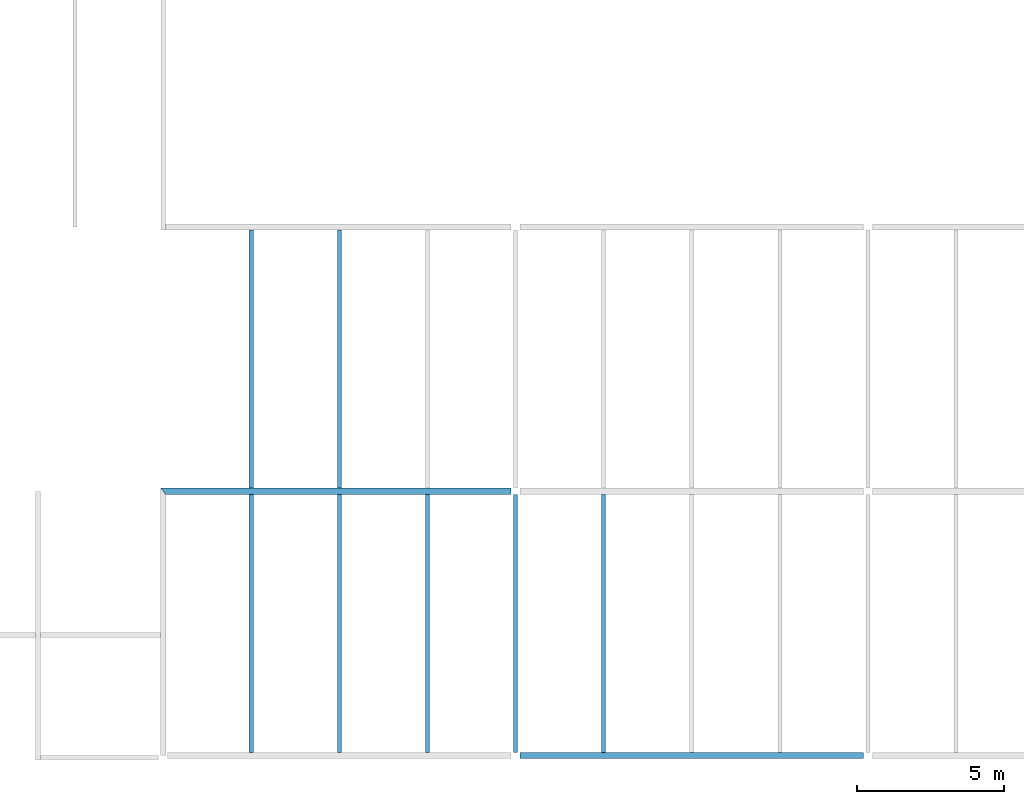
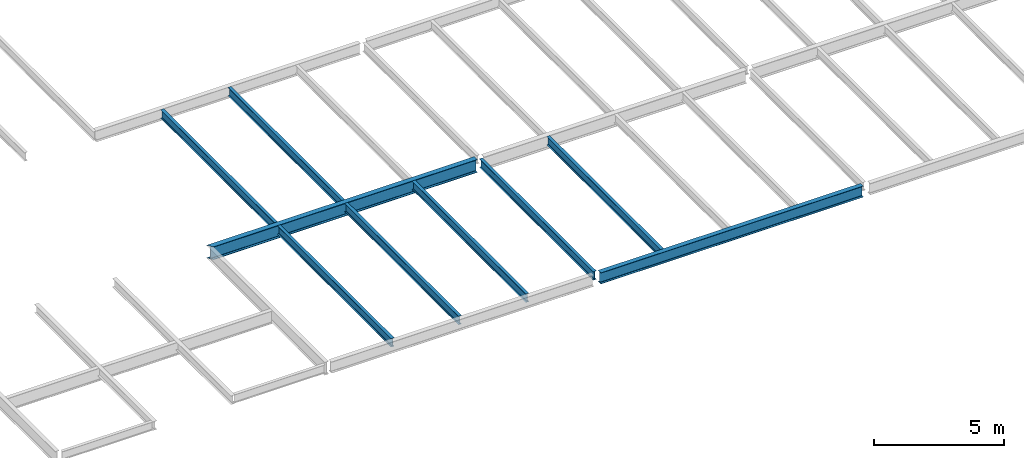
# One storey, part 13 of 23: 9 beams.
"""IFC2X3 building model written with IfcOpenShell, lengths in millimetres."""

import ifcopenshell
import ifcopenshell.guid

model = None  # the IFC model being written
_history = None  # IfcOwnerHistory: only IFC2X3 demands one
_inside = {}  # id of a spatial element -> (the spatial element, [elements in it])
_under = {}  # id of a project, library or spatial element -> (it, [spatial elements below it])
_declared = {}  # id of a project -> (the project, [libraries it declares])
_typed = {}  # id of a type object -> (the type object, [elements of that type])
_made_of = {}  # id of a material, layer set ... -> (it, [elements and type objects made of it])


def new_model(schema):
    """Start an empty IFC model of exactly this schema.

    Asked for "IFC4X3", IfcOpenShell would pick the latest addendum, in which some entities
    have other attributes; the version numbers below select the first issue.
    IFC2X3 requires an IfcOwnerHistory on every rooted entity: one is made here for all.
    """
    global model, _history
    if schema == "IFC4X3":
        model = ifcopenshell.file(schema_version=(4, 3, 0, 0))
    else:
        model = ifcopenshell.file(schema=schema)
    _inside.clear()
    _under.clear()
    _declared.clear()
    _typed.clear()
    _made_of.clear()
    _history = None
    if model.schema == "IFC2X3":
        org = make("IfcOrganization", Name="unknown")
        user = make(
            "IfcPersonAndOrganization",
            ThePerson=make("IfcPerson", FamilyName="unknown"),
            TheOrganization=org,
        )
        app = make(
            "IfcApplication",
            ApplicationDeveloper=org,
            Version="unknown",
            ApplicationFullName="unknown",
            ApplicationIdentifier="unknown",
        )
        _history = make(
            "IfcOwnerHistory",
            OwningUser=user,
            OwningApplication=app,
            ChangeAction="ADDED",
            CreationDate=0,
        )
    return model


def make(cls, **values):
    """One entity of the class cls with the attributes given. An attribute that is None is left unset."""
    return model.create_entity(
        cls, **{name: value for name, value in values.items() if value is not None}
    )


def rooted(cls, **values):
    """An entity with a GlobalId (a new one), such as an element, a storey or a relation."""
    return make(cls, GlobalId=ifcopenshell.guid.new(), OwnerHistory=_history, **values)


def si_unit(unit_type, name, prefix=None):
    """IfcSIUnit, for example si_unit("LENGTHUNIT", "METRE", prefix="MILLI")."""
    return make("IfcSIUnit", UnitType=unit_type, Prefix=prefix, Name=name)


def assignment(units):
    """IfcUnitAssignment: the units of a project."""
    return None if units is None else make("IfcUnitAssignment", Units=units)


def point(xyz):
    """IfcCartesianPoint."""
    return None if xyz is None else make("IfcCartesianPoint", Coordinates=xyz)


def direction(xyz):
    """IfcDirection."""
    return None if xyz is None else make("IfcDirection", DirectionRatios=xyz)


def frame(location, z_axis=None, x_axis=None):
    """IfcAxis2Placement3D, a coordinate frame: its origin and axes. An axis left out is left unset."""
    return make(
        "IfcAxis2Placement3D",
        Location=point(location),
        Axis=direction(z_axis),
        RefDirection=direction(x_axis),
    )


def origin():
    """The frame at (0, 0, 0) with its axes left unset."""
    return frame((0.0, 0.0, 0.0))


def place(relative_to, where):
    """IfcLocalPlacement: puts the frame where relative to a parent placement (None: the world)."""
    return make(
        "IfcLocalPlacement", PlacementRelTo=relative_to, RelativePlacement=where
    )


def context(
    kind, dimensions, precision=None, world=None, true_north=None, identifier=None
):
    """IfcGeometricRepresentationContext, for example the 3D "Model" context."""
    return make(
        "IfcGeometricRepresentationContext",
        ContextIdentifier=identifier,
        ContextType=kind,
        CoordinateSpaceDimension=dimensions,
        Precision=precision,
        WorldCoordinateSystem=world,
        TrueNorth=true_north,
    )


def project(units=None, contexts=None):
    """IfcProject with its units and contexts."""
    return rooted(
        "IfcProject",
        Name="project",
        RepresentationContexts=contexts,
        UnitsInContext=assignment(units),
    )


def spatial(cls, under=None, at=None, **own):
    """A site, building, storey or space (cls), placed at a placement, below another one or the project."""
    s = rooted(cls, ObjectPlacement=at, **own)
    if under is not None:
        _under.setdefault(under.id(), (under, []))[1].append(s)
    return s


def faces_of(points, faces, orient=None, outer=None):
    """IfcFace entities. A face is a list of loops; a loop is a list of indices into points, from 0.

    orient and outer hold one flag for each loop. By default every Orientation is true, the
    first loop of a face is its IfcFaceOuterBound and the others are IfcFaceBound.
    """
    made = []
    for i, loops in enumerate(faces):
        bounds = []
        for j, loop in enumerate(loops):
            is_outer = j == 0 if outer is None else outer[i][j]
            bounds.append(
                make(
                    "IfcFaceOuterBound" if is_outer else "IfcFaceBound",
                    Bound=make("IfcPolyLoop", Polygon=[points[k] for k in loop]),
                    Orientation=True if orient is None else orient[i][j],
                )
            )
        made.append(make("IfcFace", Bounds=bounds))
    return made


def faceted_brep(points, faces, orient=None, outer=None, voids=None):
    """IfcFacetedBrep: a solid bounded by flat faces; with voids (closed shells), ...WithVoids."""
    shared = [point(p) for p in points]
    hull = make("IfcClosedShell", CfsFaces=faces_of(shared, faces, orient, outer))
    if voids is None:
        return make("IfcFacetedBrep", Outer=hull)
    return make(
        "IfcFacetedBrepWithVoids",
        Outer=hull,
        Voids=[
            make(cls, CfsFaces=faces_of(shared, fs, o, b)) for cls, fs, o, b in voids
        ],
    )


def shape(context_of_items, identifier, shape_type, items):
    """IfcShapeRepresentation: the items that make up one representation, for example the "Body"."""
    return make(
        "IfcShapeRepresentation",
        ContextOfItems=context_of_items,
        RepresentationIdentifier=identifier,
        RepresentationType=shape_type,
        Items=items,
    )


def material(Name=None, Category=None):
    """IfcMaterial."""
    return make("IfcMaterial", Name=Name, Category=Category)


def made_of(thing, what):
    """Note that an element or type object is made of a material, layer set ...; save() writes the relation."""
    if what is not None:
        _made_of.setdefault(what.id(), (what, []))[1].append(thing)
    return thing


def element(
    cls,
    number,
    at=None,
    inside=None,
    cuts=None,
    type_object=None,
    material=None,
    context=None,
    identifier="Body",
    shape_type=None,
    held_by="IfcProductDefinitionShape",
    body=None,
    shapes=None,
    **own,
):
    """One element of the class cls, such as IfcWall. Its Tag is "e" and its number.

    at: its placement. inside: the storey or other place that contains it. cuts: it is an
    opening in that element (IfcRelVoidsElement). A single representation is given by context,
    identifier, shape_type and body (its items); several are given by shapes. held_by: the class
    of the entity that holds the representations. save() writes the other relations.
    """
    e = rooted(cls, Tag="e%d" % number, ObjectPlacement=at, **own)
    if body is not None:
        shapes = [shape(context, identifier, shape_type, body)]
    if shapes is not None:
        e.Representation = make(held_by, Representations=shapes)
    if inside is not None:
        _inside.setdefault(inside.id(), (inside, []))[1].append(e)
    if cuts is not None:
        rooted(
            "IfcRelVoidsElement", RelatingBuildingElement=cuts, RelatedOpeningElement=e
        )
    if type_object is not None:
        _typed.setdefault(type_object.id(), (type_object, []))[1].append(e)
    return made_of(e, material)


def aggregate(whole, parts):
    """IfcRelAggregates: a whole, such as a stair, and the parts it consists of."""
    return rooted("IfcRelAggregates", RelatingObject=whole, RelatedObjects=parts)


def save(model, path):
    """Write the relations noted so far, then the file.

    IfcRelAggregates (storeys below a building ...), IfcRelContainedInSpatialStructure (elements
    in a storey), IfcRelDefinesByType, IfcRelAssociatesMaterial and IfcRelDeclares: one each for
    every whole, place, type object, material and project.
    """
    for whole, parts in _under.values():
        aggregate(whole, parts)
    for where, things in _inside.values():
        rooted(
            "IfcRelContainedInSpatialStructure",
            RelatedElements=things,
            RelatingStructure=where,
        )
    for kind, things in _typed.values():
        rooted("IfcRelDefinesByType", RelatedObjects=things, RelatingType=kind)
    for what, things in _made_of.values():
        rooted("IfcRelAssociatesMaterial", RelatedObjects=things, RelatingMaterial=what)
    for by, libraries in _declared.values():
        rooted("IfcRelDeclares", RelatingContext=by, RelatedDefinitions=libraries)
    model.write(path)


model = new_model("IFC2X3")

# Units and contexts
context_of_model = context(None, 3, precision=1e-05, world=origin())
ifc_project = project(units=[si_unit("LENGTHUNIT", "METRE", prefix="MILLI")], contexts=[context_of_model])

# Building, storey
building = spatial("IfcBuilding", under=ifc_project, Name="Building", CompositionType="ELEMENT")
storey = spatial("IfcBuildingStorey", under=building, Name="FL5-FRM", CompositionType="ELEMENT")

# Beams
ifc_material_1 = material(Name="A992")
beam_1_placement = place(None, origin())
element("IfcBeam", 1, at=beam_1_placement, inside=storey, material=ifc_material_1, Name="B803", context=context_of_model, shape_type="Brep", body=[
    faceted_brep([(27070.0, 9104.5, 17474.0), (26930.0, 9104.5, 17474.0), (26930.0, 17885.5, 17474.0), (27070.0, 17885.5, 17474.0), (26930.0, 9104.5, 17482.8), (26930.0, 17885.5, 17482.8), (26986.6, 9104.5, 17482.8), (26986.6, 17885.5, 17482.8), (26989.2, 9104.5, 17483.1), (26989.2, 17885.5, 17483.1), (26991.7, 9104.5, 17484.2), (26991.7, 17885.5, 17484.2), (26993.8, 9104.5, 17485.8), (26993.8, 17885.5, 17485.8), (26995.4, 9104.5, 17487.9), (26995.4, 17885.5, 17487.9), (26996.5, 9104.5, 17490.4), (26996.5, 17885.5, 17490.4), (26996.8, 9104.5, 17493.0), (26996.8, 17885.5, 17493.0), (26996.8, 9104.5, 17854.0), (26996.8, 17885.5, 17854.0), (26996.5, 9104.5, 17856.6), (26996.5, 17885.5, 17856.6), (26995.4, 9104.5, 17859.1), (26995.4, 17885.5, 17859.1), (26993.8, 9104.5, 17861.2), (26993.8, 17885.5, 17861.2), (26991.7, 9104.5, 17862.8), (26991.7, 17885.5, 17862.8), (26989.2, 9104.5, 17863.9), (26989.2, 17885.5, 17863.9), (26986.6, 9104.5, 17864.2), (26986.6, 17885.5, 17864.2), (26930.0, 9104.5, 17864.2), (26930.0, 17885.5, 17864.2), (26930.0, 9104.5, 17873.0), (26930.0, 17885.5, 17873.0), (27070.0, 9104.5, 17873.0), (27070.0, 17885.5, 17873.0), (27070.0, 9104.5, 17864.2), (27070.0, 17885.5, 17864.2), (27013.4, 9104.5, 17864.2), (27013.4, 17885.5, 17864.2), (27010.8, 9104.5, 17863.9), (27010.8, 17885.5, 17863.9), (27008.3, 9104.5, 17862.8), (27008.3, 17885.5, 17862.8), (27006.2, 9104.5, 17861.2), (27006.2, 17885.5, 17861.2), (27004.6, 9104.5, 17859.1), (27004.6, 17885.5, 17859.1), (27003.5, 9104.5, 17856.6), (27003.5, 17885.5, 17856.6), (27003.2, 9104.5, 17854.0), (27003.2, 17885.5, 17854.0), (27003.2, 9104.5, 17493.0), (27003.2, 17885.5, 17493.0), (27003.5, 9104.5, 17490.4), (27003.5, 17885.5, 17490.4), (27004.6, 9104.5, 17487.9), (27004.6, 17885.5, 17487.9), (27006.2, 9104.5, 17485.8), (27006.2, 17885.5, 17485.8), (27008.3, 9104.5, 17484.2), (27008.3, 17885.5, 17484.2), (27010.8, 9104.5, 17483.1), (27010.8, 17885.5, 17483.1), (27013.4, 9104.5, 17482.8), (27013.4, 17885.5, 17482.8), (27070.0, 9104.5, 17482.8), (27070.0, 17885.5, 17482.8)], [[[0, 1, 2, 3]], [[1, 4, 5, 2]], [[4, 6, 7, 5]], [[6, 8, 9, 7]], [[8, 10, 11, 9]], [[10, 12, 13, 11]], [[12, 14, 15, 13]], [[14, 16, 17, 15]], [[16, 18, 19, 17]], [[18, 20, 21, 19]], [[20, 22, 23, 21]], [[22, 24, 25, 23]], [[24, 26, 27, 25]], [[26, 28, 29, 27]], [[28, 30, 31, 29]], [[30, 32, 33, 31]], [[32, 34, 35, 33]], [[34, 36, 37, 35]], [[36, 38, 39, 37]], [[38, 40, 41, 39]], [[40, 42, 43, 41]], [[42, 44, 45, 43]], [[44, 46, 47, 45]], [[46, 48, 49, 47]], [[48, 50, 51, 49]], [[50, 52, 53, 51]], [[52, 54, 55, 53]], [[54, 56, 57, 55]], [[56, 58, 59, 57]], [[58, 60, 61, 59]], [[60, 62, 63, 61]], [[62, 64, 65, 63]], [[64, 66, 67, 65]], [[66, 68, 69, 67]], [[68, 70, 71, 69]], [[70, 0, 3, 71]], [[0, 70, 68, 66, 64, 62, 60, 58, 56, 54, 52, 50, 48, 46, 44, 42, 40, 38, 36, 34, 32, 30, 28, 26, 24, 22, 20, 18, 16, 14, 12, 10, 8, 6, 4, 1]], [[3, 2, 5, 7, 9, 11, 13, 15, 17, 19, 21, 23, 25, 27, 29, 31, 33, 35, 37, 39, 41, 43, 45, 47, 49, 51, 53, 55, 57, 59, 61, 63, 65, 67, 69, 71]]]),
])
ifc_material_2 = material(Name="A992")
beam_2_placement = place(None, origin())
element("IfcBeam", 2, at=beam_2_placement, inside=storey, material=ifc_material_2, Name="B808", context=context_of_model, shape_type="Brep", body=[
    faceted_brep([(24070.0, 9104.5, 17474.0), (23930.0, 9104.5, 17474.0), (23930.0, 17885.5, 17474.0), (24070.0, 17885.5, 17474.0), (23930.0, 9104.5, 17482.8), (23930.0, 17885.5, 17482.8), (23986.6, 9104.5, 17482.8), (23986.6, 17885.5, 17482.8), (23989.2, 9104.5, 17483.1), (23989.2, 17885.5, 17483.1), (23991.7, 9104.5, 17484.2), (23991.7, 17885.5, 17484.2), (23993.8, 9104.5, 17485.8), (23993.8, 17885.5, 17485.8), (23995.4, 9104.5, 17487.9), (23995.4, 17885.5, 17487.9), (23996.5, 9104.5, 17490.4), (23996.5, 17885.5, 17490.4), (23996.8, 9104.5, 17493.0), (23996.8, 17885.5, 17493.0), (23996.8, 9104.5, 17854.0), (23996.8, 17885.5, 17854.0), (23996.5, 9104.5, 17856.6), (23996.5, 17885.5, 17856.6), (23995.4, 9104.5, 17859.1), (23995.4, 17885.5, 17859.1), (23993.8, 9104.5, 17861.2), (23993.8, 17885.5, 17861.2), (23991.7, 9104.5, 17862.8), (23991.7, 17885.5, 17862.8), (23989.2, 9104.5, 17863.9), (23989.2, 17885.5, 17863.9), (23986.6, 9104.5, 17864.2), (23986.6, 17885.5, 17864.2), (23930.0, 9104.5, 17864.2), (23930.0, 17885.5, 17864.2), (23930.0, 9104.5, 17873.0), (23930.0, 17885.5, 17873.0), (24070.0, 9104.5, 17873.0), (24070.0, 17885.5, 17873.0), (24070.0, 9104.5, 17864.2), (24070.0, 17885.5, 17864.2), (24013.4, 9104.5, 17864.2), (24013.4, 17885.5, 17864.2), (24010.8, 9104.5, 17863.9), (24010.8, 17885.5, 17863.9), (24008.3, 9104.5, 17862.8), (24008.3, 17885.5, 17862.8), (24006.2, 9104.5, 17861.2), (24006.2, 17885.5, 17861.2), (24004.6, 9104.5, 17859.1), (24004.6, 17885.5, 17859.1), (24003.5, 9104.5, 17856.6), (24003.5, 17885.5, 17856.6), (24003.2, 9104.5, 17854.0), (24003.2, 17885.5, 17854.0), (24003.2, 9104.5, 17493.0), (24003.2, 17885.5, 17493.0), (24003.5, 9104.5, 17490.4), (24003.5, 17885.5, 17490.4), (24004.6, 9104.5, 17487.9), (24004.6, 17885.5, 17487.9), (24006.2, 9104.5, 17485.8), (24006.2, 17885.5, 17485.8), (24008.3, 9104.5, 17484.2), (24008.3, 17885.5, 17484.2), (24010.8, 9104.5, 17483.1), (24010.8, 17885.5, 17483.1), (24013.4, 9104.5, 17482.8), (24013.4, 17885.5, 17482.8), (24070.0, 9104.5, 17482.8), (24070.0, 17885.5, 17482.8)], [[[0, 1, 2, 3]], [[1, 4, 5, 2]], [[4, 6, 7, 5]], [[6, 8, 9, 7]], [[8, 10, 11, 9]], [[10, 12, 13, 11]], [[12, 14, 15, 13]], [[14, 16, 17, 15]], [[16, 18, 19, 17]], [[18, 20, 21, 19]], [[20, 22, 23, 21]], [[22, 24, 25, 23]], [[24, 26, 27, 25]], [[26, 28, 29, 27]], [[28, 30, 31, 29]], [[30, 32, 33, 31]], [[32, 34, 35, 33]], [[34, 36, 37, 35]], [[36, 38, 39, 37]], [[38, 40, 41, 39]], [[40, 42, 43, 41]], [[42, 44, 45, 43]], [[44, 46, 47, 45]], [[46, 48, 49, 47]], [[48, 50, 51, 49]], [[50, 52, 53, 51]], [[52, 54, 55, 53]], [[54, 56, 57, 55]], [[56, 58, 59, 57]], [[58, 60, 61, 59]], [[60, 62, 63, 61]], [[62, 64, 65, 63]], [[64, 66, 67, 65]], [[66, 68, 69, 67]], [[68, 70, 71, 69]], [[70, 0, 3, 71]], [[0, 70, 68, 66, 64, 62, 60, 58, 56, 54, 52, 50, 48, 46, 44, 42, 40, 38, 36, 34, 32, 30, 28, 26, 24, 22, 20, 18, 16, 14, 12, 10, 8, 6, 4, 1]], [[3, 2, 5, 7, 9, 11, 13, 15, 17, 19, 21, 23, 25, 27, 29, 31, 33, 35, 37, 39, 41, 43, 45, 47, 49, 51, 53, 55, 57, 59, 61, 63, 65, 67, 69, 71]]]),
])
ifc_material_3 = material(Name="A992")
beam_3_placement = place(None, origin())
element("IfcBeam", 3, at=beam_3_placement, inside=storey, material=ifc_material_3, Name="Column584", context=context_of_model, shape_type="Brep", body=[
    faceted_brep([(24153.0, 8895.5, 17345.0), (24153.0, 9104.5, 17345.0), (35847.0, 9104.5, 17345.0), (35847.0, 8895.5, 17345.0), (24153.0, 9104.5, 17358.3), (35847.0, 9104.5, 17358.3), (24153.0, 9017.45, 17358.3), (35847.0, 9017.45, 17358.3), (24153.0, 9014.16, 17358.7), (35847.0, 9014.16, 17358.7), (24153.0, 9011.1, 17360.0), (35847.0, 9011.1, 17360.0), (24153.0, 9008.47, 17362.0), (35847.0, 9008.47, 17362.0), (24153.0, 9006.45, 17364.7), (35847.0, 9006.45, 17364.7), (24153.0, 9005.18, 17367.7), (35847.0, 9005.18, 17367.7), (24153.0, 9004.75, 17371.0), (35847.0, 9004.75, 17371.0), (24153.0, 9004.75, 17847.0), (35847.0, 9004.75, 17847.0), (24153.0, 9005.18, 17850.3), (35847.0, 9005.18, 17850.3), (24153.0, 9006.45, 17853.3), (35847.0, 9006.45, 17853.3), (24153.0, 9008.47, 17856.0), (35847.0, 9008.47, 17856.0), (24153.0, 9011.1, 17858.0), (35847.0, 9011.1, 17858.0), (24153.0, 9014.16, 17859.3), (35847.0, 9014.16, 17859.3), (24153.0, 9017.45, 17859.7), (35847.0, 9017.45, 17859.7), (24153.0, 9104.5, 17859.7), (35847.0, 9104.5, 17859.7), (24153.0, 9104.5, 17873.0), (35847.0, 9104.5, 17873.0), (24153.0, 8895.5, 17873.0), (35847.0, 8895.5, 17873.0), (24153.0, 8895.5, 17859.7), (35847.0, 8895.5, 17859.7), (24153.0, 8982.55, 17859.7), (35847.0, 8982.55, 17859.7), (24153.0, 8985.84, 17859.3), (35847.0, 8985.84, 17859.3), (24153.0, 8988.9, 17858.0), (35847.0, 8988.9, 17858.0), (24153.0, 8991.53, 17856.0), (35847.0, 8991.53, 17856.0), (24153.0, 8993.55, 17853.3), (35847.0, 8993.55, 17853.3), (24153.0, 8994.82, 17850.3), (35847.0, 8994.82, 17850.3), (24153.0, 8995.25, 17847.0), (35847.0, 8995.25, 17847.0), (24153.0, 8995.25, 17371.0), (35847.0, 8995.25, 17371.0), (24153.0, 8994.82, 17367.7), (35847.0, 8994.82, 17367.7), (24153.0, 8993.55, 17364.7), (35847.0, 8993.55, 17364.7), (24153.0, 8991.53, 17362.0), (35847.0, 8991.53, 17362.0), (24153.0, 8988.9, 17360.0), (35847.0, 8988.9, 17360.0), (24153.0, 8985.84, 17358.7), (35847.0, 8985.84, 17358.7), (24153.0, 8982.55, 17358.3), (35847.0, 8982.55, 17358.3), (24153.0, 8895.5, 17358.3), (35847.0, 8895.5, 17358.3)], [[[0, 1, 2, 3]], [[1, 4, 5, 2]], [[4, 6, 7, 5]], [[6, 8, 9, 7]], [[8, 10, 11, 9]], [[10, 12, 13, 11]], [[12, 14, 15, 13]], [[14, 16, 17, 15]], [[16, 18, 19, 17]], [[18, 20, 21, 19]], [[20, 22, 23, 21]], [[22, 24, 25, 23]], [[24, 26, 27, 25]], [[26, 28, 29, 27]], [[28, 30, 31, 29]], [[30, 32, 33, 31]], [[32, 34, 35, 33]], [[34, 36, 37, 35]], [[36, 38, 39, 37]], [[38, 40, 41, 39]], [[40, 42, 43, 41]], [[42, 44, 45, 43]], [[44, 46, 47, 45]], [[46, 48, 49, 47]], [[48, 50, 51, 49]], [[50, 52, 53, 51]], [[52, 54, 55, 53]], [[54, 56, 57, 55]], [[56, 58, 59, 57]], [[58, 60, 61, 59]], [[60, 62, 63, 61]], [[62, 64, 65, 63]], [[64, 66, 67, 65]], [[66, 68, 69, 67]], [[68, 70, 71, 69]], [[70, 0, 3, 71]], [[0, 70, 68, 66, 64, 62, 60, 58, 56, 54, 52, 50, 48, 46, 44, 42, 40, 38, 36, 34, 32, 30, 28, 26, 24, 22, 20, 18, 16, 14, 12, 10, 8, 6, 4, 1]], [[3, 2, 5, 7, 9, 11, 13, 15, 17, 19, 21, 23, 25, 27, 29, 31, 33, 35, 37, 39, 41, 43, 45, 47, 49, 51, 53, 55, 57, 59, 61, 63, 65, 67, 69, 71]]]),
])
ifc_material_4 = material(Name="A992")
beam_4_placement = place(None, origin())
element("IfcBeam", 4, at=beam_4_placement, inside=storey, material=ifc_material_4, Name="B811", context=context_of_model, shape_type="Brep", body=[
    faceted_brep([(17930.0, 26895.5, 17474.0), (18070.0, 26895.5, 17474.0), (18070.0, 18114.5, 17474.0), (17930.0, 18114.5, 17474.0), (18070.0, 26895.5, 17482.8), (18070.0, 18114.5, 17482.8), (18013.4, 26895.5, 17482.8), (18013.4, 18114.5, 17482.8), (18010.8, 26895.5, 17483.1), (18010.8, 18114.5, 17483.1), (18008.3, 26895.5, 17484.2), (18008.3, 18114.5, 17484.2), (18006.2, 26895.5, 17485.8), (18006.2, 18114.5, 17485.8), (18004.6, 26895.5, 17487.9), (18004.6, 18114.5, 17487.9), (18003.5, 26895.5, 17490.4), (18003.5, 18114.5, 17490.4), (18003.2, 26895.5, 17493.0), (18003.2, 18114.5, 17493.0), (18003.2, 26895.5, 17854.0), (18003.2, 18114.5, 17854.0), (18003.5, 26895.5, 17856.6), (18003.5, 18114.5, 17856.6), (18004.6, 26895.5, 17859.1), (18004.6, 18114.5, 17859.1), (18006.2, 26895.5, 17861.2), (18006.2, 18114.5, 17861.2), (18008.3, 26895.5, 17862.8), (18008.3, 18114.5, 17862.8), (18010.8, 26895.5, 17863.9), (18010.8, 18114.5, 17863.9), (18013.4, 26895.5, 17864.2), (18013.4, 18114.5, 17864.2), (18070.0, 26895.5, 17864.2), (18070.0, 18114.5, 17864.2), (18070.0, 26895.5, 17873.0), (18070.0, 18114.5, 17873.0), (17930.0, 26895.5, 17873.0), (17930.0, 18114.5, 17873.0), (17930.0, 26895.5, 17864.2), (17930.0, 18114.5, 17864.2), (17986.6, 26895.5, 17864.2), (17986.6, 18114.5, 17864.2), (17989.2, 26895.5, 17863.9), (17989.2, 18114.5, 17863.9), (17991.7, 26895.5, 17862.8), (17991.7, 18114.5, 17862.8), (17993.8, 26895.5, 17861.2), (17993.8, 18114.5, 17861.2), (17995.4, 26895.5, 17859.1), (17995.4, 18114.5, 17859.1), (17996.5, 26895.5, 17856.6), (17996.5, 18114.5, 17856.6), (17996.8, 26895.5, 17854.0), (17996.8, 18114.5, 17854.0), (17996.8, 26895.5, 17493.0), (17996.8, 18114.5, 17493.0), (17996.5, 26895.5, 17490.4), (17996.5, 18114.5, 17490.4), (17995.4, 26895.5, 17487.9), (17995.4, 18114.5, 17487.9), (17993.8, 26895.5, 17485.8), (17993.8, 18114.5, 17485.8), (17991.7, 26895.5, 17484.2), (17991.7, 18114.5, 17484.2), (17989.2, 26895.5, 17483.1), (17989.2, 18114.5, 17483.1), (17986.6, 26895.5, 17482.8), (17986.6, 18114.5, 17482.8), (17930.0, 26895.5, 17482.8), (17930.0, 18114.5, 17482.8)], [[[0, 1, 2, 3]], [[1, 4, 5, 2]], [[4, 6, 7, 5]], [[6, 8, 9, 7]], [[8, 10, 11, 9]], [[10, 12, 13, 11]], [[12, 14, 15, 13]], [[14, 16, 17, 15]], [[16, 18, 19, 17]], [[18, 20, 21, 19]], [[20, 22, 23, 21]], [[22, 24, 25, 23]], [[24, 26, 27, 25]], [[26, 28, 29, 27]], [[28, 30, 31, 29]], [[30, 32, 33, 31]], [[32, 34, 35, 33]], [[34, 36, 37, 35]], [[36, 38, 39, 37]], [[38, 40, 41, 39]], [[40, 42, 43, 41]], [[42, 44, 45, 43]], [[44, 46, 47, 45]], [[46, 48, 49, 47]], [[48, 50, 51, 49]], [[50, 52, 53, 51]], [[52, 54, 55, 53]], [[54, 56, 57, 55]], [[56, 58, 59, 57]], [[58, 60, 61, 59]], [[60, 62, 63, 61]], [[62, 64, 65, 63]], [[64, 66, 67, 65]], [[66, 68, 69, 67]], [[68, 70, 71, 69]], [[70, 0, 3, 71]], [[0, 70, 68, 66, 64, 62, 60, 58, 56, 54, 52, 50, 48, 46, 44, 42, 40, 38, 36, 34, 32, 30, 28, 26, 24, 22, 20, 18, 16, 14, 12, 10, 8, 6, 4, 1]], [[3, 2, 5, 7, 9, 11, 13, 15, 17, 19, 21, 23, 25, 27, 29, 31, 33, 35, 37, 39, 41, 43, 45, 47, 49, 51, 53, 55, 57, 59, 61, 63, 65, 67, 69, 71]]]),
])
ifc_material_5 = material(Name="A992")
beam_5_placement = place(None, origin())
element("IfcBeam", 5, at=beam_5_placement, inside=storey, material=ifc_material_5, Name="B813", context=context_of_model, shape_type="Brep", body=[
    faceted_brep([(15070.0, 9104.5, 17474.0), (14930.0, 9104.5, 17474.0), (14930.0, 17885.5, 17474.0), (15070.0, 17885.5, 17474.0), (14930.0, 9104.5, 17482.8), (14930.0, 17885.5, 17482.8), (14986.6, 9104.5, 17482.8), (14986.6, 17885.5, 17482.8), (14989.2, 9104.5, 17483.1), (14989.2, 17885.5, 17483.1), (14991.7, 9104.5, 17484.2), (14991.7, 17885.5, 17484.2), (14993.8, 9104.5, 17485.8), (14993.8, 17885.5, 17485.8), (14995.4, 9104.5, 17487.9), (14995.4, 17885.5, 17487.9), (14996.5, 9104.5, 17490.4), (14996.5, 17885.5, 17490.4), (14996.8, 9104.5, 17493.0), (14996.8, 17885.5, 17493.0), (14996.8, 9104.5, 17854.0), (14996.8, 17885.5, 17854.0), (14996.5, 9104.5, 17856.6), (14996.5, 17885.5, 17856.6), (14995.4, 9104.5, 17859.1), (14995.4, 17885.5, 17859.1), (14993.8, 9104.5, 17861.2), (14993.8, 17885.5, 17861.2), (14991.7, 9104.5, 17862.8), (14991.7, 17885.5, 17862.8), (14989.2, 9104.5, 17863.9), (14989.2, 17885.5, 17863.9), (14986.6, 9104.5, 17864.2), (14986.6, 17885.5, 17864.2), (14930.0, 9104.5, 17864.2), (14930.0, 17885.5, 17864.2), (14930.0, 9104.5, 17873.0), (14930.0, 17885.5, 17873.0), (15070.0, 9104.5, 17873.0), (15070.0, 17885.5, 17873.0), (15070.0, 9104.5, 17864.2), (15070.0, 17885.5, 17864.2), (15013.4, 9104.5, 17864.2), (15013.4, 17885.5, 17864.2), (15010.8, 9104.5, 17863.9), (15010.8, 17885.5, 17863.9), (15008.3, 9104.5, 17862.8), (15008.3, 17885.5, 17862.8), (15006.2, 9104.5, 17861.2), (15006.2, 17885.5, 17861.2), (15004.6, 9104.5, 17859.1), (15004.6, 17885.5, 17859.1), (15003.5, 9104.5, 17856.6), (15003.5, 17885.5, 17856.6), (15003.2, 9104.5, 17854.0), (15003.2, 17885.5, 17854.0), (15003.2, 9104.5, 17493.0), (15003.2, 17885.5, 17493.0), (15003.5, 9104.5, 17490.4), (15003.5, 17885.5, 17490.4), (15004.6, 9104.5, 17487.9), (15004.6, 17885.5, 17487.9), (15006.2, 9104.5, 17485.8), (15006.2, 17885.5, 17485.8), (15008.3, 9104.5, 17484.2), (15008.3, 17885.5, 17484.2), (15010.8, 9104.5, 17483.1), (15010.8, 17885.5, 17483.1), (15013.4, 9104.5, 17482.8), (15013.4, 17885.5, 17482.8), (15070.0, 9104.5, 17482.8), (15070.0, 17885.5, 17482.8)], [[[0, 1, 2, 3]], [[1, 4, 5, 2]], [[4, 6, 7, 5]], [[6, 8, 9, 7]], [[8, 10, 11, 9]], [[10, 12, 13, 11]], [[12, 14, 15, 13]], [[14, 16, 17, 15]], [[16, 18, 19, 17]], [[18, 20, 21, 19]], [[20, 22, 23, 21]], [[22, 24, 25, 23]], [[24, 26, 27, 25]], [[26, 28, 29, 27]], [[28, 30, 31, 29]], [[30, 32, 33, 31]], [[32, 34, 35, 33]], [[34, 36, 37, 35]], [[36, 38, 39, 37]], [[38, 40, 41, 39]], [[40, 42, 43, 41]], [[42, 44, 45, 43]], [[44, 46, 47, 45]], [[46, 48, 49, 47]], [[48, 50, 51, 49]], [[50, 52, 53, 51]], [[52, 54, 55, 53]], [[54, 56, 57, 55]], [[56, 58, 59, 57]], [[58, 60, 61, 59]], [[60, 62, 63, 61]], [[62, 64, 65, 63]], [[64, 66, 67, 65]], [[66, 68, 69, 67]], [[68, 70, 71, 69]], [[70, 0, 3, 71]], [[0, 70, 68, 66, 64, 62, 60, 58, 56, 54, 52, 50, 48, 46, 44, 42, 40, 38, 36, 34, 32, 30, 28, 26, 24, 22, 20, 18, 16, 14, 12, 10, 8, 6, 4, 1]], [[3, 2, 5, 7, 9, 11, 13, 15, 17, 19, 21, 23, 25, 27, 29, 31, 33, 35, 37, 39, 41, 43, 45, 47, 49, 51, 53, 55, 57, 59, 61, 63, 65, 67, 69, 71]]]),
])
ifc_material_6 = material(Name="A992")
beam_6_placement = place(None, origin())
element("IfcBeam", 6, at=beam_6_placement, inside=storey, material=ifc_material_6, Name="B814", context=context_of_model, shape_type="Brep", body=[
    faceted_brep([(18070.0, 9104.5, 17474.0), (17930.0, 9104.5, 17474.0), (17930.0, 17885.5, 17474.0), (18070.0, 17885.5, 17474.0), (17930.0, 9104.5, 17482.8), (17930.0, 17885.5, 17482.8), (17986.6, 9104.5, 17482.8), (17986.6, 17885.5, 17482.8), (17989.2, 9104.5, 17483.1), (17989.2, 17885.5, 17483.1), (17991.7, 9104.5, 17484.2), (17991.7, 17885.5, 17484.2), (17993.8, 9104.5, 17485.8), (17993.8, 17885.5, 17485.8), (17995.4, 9104.5, 17487.9), (17995.4, 17885.5, 17487.9), (17996.5, 9104.5, 17490.4), (17996.5, 17885.5, 17490.4), (17996.8, 9104.5, 17493.0), (17996.8, 17885.5, 17493.0), (17996.8, 9104.5, 17854.0), (17996.8, 17885.5, 17854.0), (17996.5, 9104.5, 17856.6), (17996.5, 17885.5, 17856.6), (17995.4, 9104.5, 17859.1), (17995.4, 17885.5, 17859.1), (17993.8, 9104.5, 17861.2), (17993.8, 17885.5, 17861.2), (17991.7, 9104.5, 17862.8), (17991.7, 17885.5, 17862.8), (17989.2, 9104.5, 17863.9), (17989.2, 17885.5, 17863.9), (17986.6, 9104.5, 17864.2), (17986.6, 17885.5, 17864.2), (17930.0, 9104.5, 17864.2), (17930.0, 17885.5, 17864.2), (17930.0, 9104.5, 17873.0), (17930.0, 17885.5, 17873.0), (18070.0, 9104.5, 17873.0), (18070.0, 17885.5, 17873.0), (18070.0, 9104.5, 17864.2), (18070.0, 17885.5, 17864.2), (18013.4, 9104.5, 17864.2), (18013.4, 17885.5, 17864.2), (18010.8, 9104.5, 17863.9), (18010.8, 17885.5, 17863.9), (18008.3, 9104.5, 17862.8), (18008.3, 17885.5, 17862.8), (18006.2, 9104.5, 17861.2), (18006.2, 17885.5, 17861.2), (18004.6, 9104.5, 17859.1), (18004.6, 17885.5, 17859.1), (18003.5, 9104.5, 17856.6), (18003.5, 17885.5, 17856.6), (18003.2, 9104.5, 17854.0), (18003.2, 17885.5, 17854.0), (18003.2, 9104.5, 17493.0), (18003.2, 17885.5, 17493.0), (18003.5, 9104.5, 17490.4), (18003.5, 17885.5, 17490.4), (18004.6, 9104.5, 17487.9), (18004.6, 17885.5, 17487.9), (18006.2, 9104.5, 17485.8), (18006.2, 17885.5, 17485.8), (18008.3, 9104.5, 17484.2), (18008.3, 17885.5, 17484.2), (18010.8, 9104.5, 17483.1), (18010.8, 17885.5, 17483.1), (18013.4, 9104.5, 17482.8), (18013.4, 17885.5, 17482.8), (18070.0, 9104.5, 17482.8), (18070.0, 17885.5, 17482.8)], [[[0, 1, 2, 3]], [[1, 4, 5, 2]], [[4, 6, 7, 5]], [[6, 8, 9, 7]], [[8, 10, 11, 9]], [[10, 12, 13, 11]], [[12, 14, 15, 13]], [[14, 16, 17, 15]], [[16, 18, 19, 17]], [[18, 20, 21, 19]], [[20, 22, 23, 21]], [[22, 24, 25, 23]], [[24, 26, 27, 25]], [[26, 28, 29, 27]], [[28, 30, 31, 29]], [[30, 32, 33, 31]], [[32, 34, 35, 33]], [[34, 36, 37, 35]], [[36, 38, 39, 37]], [[38, 40, 41, 39]], [[40, 42, 43, 41]], [[42, 44, 45, 43]], [[44, 46, 47, 45]], [[46, 48, 49, 47]], [[48, 50, 51, 49]], [[50, 52, 53, 51]], [[52, 54, 55, 53]], [[54, 56, 57, 55]], [[56, 58, 59, 57]], [[58, 60, 61, 59]], [[60, 62, 63, 61]], [[62, 64, 65, 63]], [[64, 66, 67, 65]], [[66, 68, 69, 67]], [[68, 70, 71, 69]], [[70, 0, 3, 71]], [[0, 70, 68, 66, 64, 62, 60, 58, 56, 54, 52, 50, 48, 46, 44, 42, 40, 38, 36, 34, 32, 30, 28, 26, 24, 22, 20, 18, 16, 14, 12, 10, 8, 6, 4, 1]], [[3, 2, 5, 7, 9, 11, 13, 15, 17, 19, 21, 23, 25, 27, 29, 31, 33, 35, 37, 39, 41, 43, 45, 47, 49, 51, 53, 55, 57, 59, 61, 63, 65, 67, 69, 71]]]),
])
ifc_material_7 = material(Name="A992")
beam_7_placement = place(None, origin())
element("IfcBeam", 7, at=beam_7_placement, inside=storey, material=ifc_material_7, Name="B815", context=context_of_model, shape_type="Brep", body=[
    faceted_brep([(21070.0, 9104.5, 17474.0), (20930.0, 9104.5, 17474.0), (20930.0, 17885.5, 17474.0), (21070.0, 17885.5, 17474.0), (20930.0, 9104.5, 17482.8), (20930.0, 17885.5, 17482.8), (20986.6, 9104.5, 17482.8), (20986.6, 17885.5, 17482.8), (20989.2, 9104.5, 17483.1), (20989.2, 17885.5, 17483.1), (20991.7, 9104.5, 17484.2), (20991.7, 17885.5, 17484.2), (20993.8, 9104.5, 17485.8), (20993.8, 17885.5, 17485.8), (20995.4, 9104.5, 17487.9), (20995.4, 17885.5, 17487.9), (20996.5, 9104.5, 17490.4), (20996.5, 17885.5, 17490.4), (20996.8, 9104.5, 17493.0), (20996.8, 17885.5, 17493.0), (20996.8, 9104.5, 17854.0), (20996.8, 17885.5, 17854.0), (20996.5, 9104.5, 17856.6), (20996.5, 17885.5, 17856.6), (20995.4, 9104.5, 17859.1), (20995.4, 17885.5, 17859.1), (20993.8, 9104.5, 17861.2), (20993.8, 17885.5, 17861.2), (20991.7, 9104.5, 17862.8), (20991.7, 17885.5, 17862.8), (20989.2, 9104.5, 17863.9), (20989.2, 17885.5, 17863.9), (20986.6, 9104.5, 17864.2), (20986.6, 17885.5, 17864.2), (20930.0, 9104.5, 17864.2), (20930.0, 17885.5, 17864.2), (20930.0, 9104.5, 17873.0), (20930.0, 17885.5, 17873.0), (21070.0, 9104.5, 17873.0), (21070.0, 17885.5, 17873.0), (21070.0, 9104.5, 17864.2), (21070.0, 17885.5, 17864.2), (21013.4, 9104.5, 17864.2), (21013.4, 17885.5, 17864.2), (21010.8, 9104.5, 17863.9), (21010.8, 17885.5, 17863.9), (21008.3, 9104.5, 17862.8), (21008.3, 17885.5, 17862.8), (21006.2, 9104.5, 17861.2), (21006.2, 17885.5, 17861.2), (21004.6, 9104.5, 17859.1), (21004.6, 17885.5, 17859.1), (21003.5, 9104.5, 17856.6), (21003.5, 17885.5, 17856.6), (21003.2, 9104.5, 17854.0), (21003.2, 17885.5, 17854.0), (21003.2, 9104.5, 17493.0), (21003.2, 17885.5, 17493.0), (21003.5, 9104.5, 17490.4), (21003.5, 17885.5, 17490.4), (21004.6, 9104.5, 17487.9), (21004.6, 17885.5, 17487.9), (21006.2, 9104.5, 17485.8), (21006.2, 17885.5, 17485.8), (21008.3, 9104.5, 17484.2), (21008.3, 17885.5, 17484.2), (21010.8, 9104.5, 17483.1), (21010.8, 17885.5, 17483.1), (21013.4, 9104.5, 17482.8), (21013.4, 17885.5, 17482.8), (21070.0, 9104.5, 17482.8), (21070.0, 17885.5, 17482.8)], [[[0, 1, 2, 3]], [[1, 4, 5, 2]], [[4, 6, 7, 5]], [[6, 8, 9, 7]], [[8, 10, 11, 9]], [[10, 12, 13, 11]], [[12, 14, 15, 13]], [[14, 16, 17, 15]], [[16, 18, 19, 17]], [[18, 20, 21, 19]], [[20, 22, 23, 21]], [[22, 24, 25, 23]], [[24, 26, 27, 25]], [[26, 28, 29, 27]], [[28, 30, 31, 29]], [[30, 32, 33, 31]], [[32, 34, 35, 33]], [[34, 36, 37, 35]], [[36, 38, 39, 37]], [[38, 40, 41, 39]], [[40, 42, 43, 41]], [[42, 44, 45, 43]], [[44, 46, 47, 45]], [[46, 48, 49, 47]], [[48, 50, 51, 49]], [[50, 52, 53, 51]], [[52, 54, 55, 53]], [[54, 56, 57, 55]], [[56, 58, 59, 57]], [[58, 60, 61, 59]], [[60, 62, 63, 61]], [[62, 64, 65, 63]], [[64, 66, 67, 65]], [[66, 68, 69, 67]], [[68, 70, 71, 69]], [[70, 0, 3, 71]], [[0, 70, 68, 66, 64, 62, 60, 58, 56, 54, 52, 50, 48, 46, 44, 42, 40, 38, 36, 34, 32, 30, 28, 26, 24, 22, 20, 18, 16, 14, 12, 10, 8, 6, 4, 1]], [[3, 2, 5, 7, 9, 11, 13, 15, 17, 19, 21, 23, 25, 27, 29, 31, 33, 35, 37, 39, 41, 43, 45, 47, 49, 51, 53, 55, 57, 59, 61, 63, 65, 67, 69, 71]]]),
])
ifc_material_8 = material(Name="A992")
beam_8_placement = place(None, origin())
element("IfcBeam", 8, at=beam_8_placement, inside=storey, material=ifc_material_8, Name="Column585", context=context_of_model, shape_type="Brep", body=[
    faceted_brep([(12089.5, 17885.5, 17261.0), (11910.5, 18114.5, 17261.0), (23843.0, 18114.5, 17261.0), (23843.0, 17885.5, 17261.0), (11910.5, 18114.5, 17280.6), (23843.0, 18114.5, 17280.6), (11985.4, 18018.6, 17280.6), (23843.0, 18018.6, 17280.6), (11986.8, 18016.9, 17280.7), (23843.0, 18016.8, 17280.7), (11988.2, 18015.1, 17281.1), (23843.0, 18015.1, 17281.1), (11989.5, 18013.4, 17281.7), (23843.0, 18013.4, 17281.7), (11990.8, 18011.8, 17282.6), (23843.0, 18011.8, 17282.6), (11991.9, 18010.4, 17283.7), (23843.0, 18010.3, 17283.7), (11992.9, 18009.1, 17285.0), (23843.0, 18009.1, 17285.0), (11993.8, 18008.0, 17286.4), (23843.0, 18008.0, 17286.4), (11994.4, 18007.1, 17288.0), (23843.0, 18007.1, 17288.0), (11994.9, 18006.5, 17289.7), (23843.0, 18006.5, 17289.7), (11995.2, 18006.1, 17291.5), (23843.0, 18006.1, 17291.5), (11995.3, 18005.9, 17293.3), (23843.0, 18005.9, 17293.3), (11995.3, 18005.9, 17840.7), (23843.0, 18005.9, 17840.7), (11995.2, 18006.1, 17842.5), (23843.0, 18006.1, 17842.5), (11994.9, 18006.5, 17844.3), (23843.0, 18006.5, 17844.3), (11994.4, 18007.1, 17846.0), (23843.0, 18007.1, 17846.0), (11993.8, 18008.0, 17847.6), (23843.0, 18008.0, 17847.6), (11992.9, 18009.1, 17849.0), (23843.0, 18009.1, 17849.0), (11991.9, 18010.4, 17850.3), (23843.0, 18010.3, 17850.3), (11990.8, 18011.8, 17851.4), (23843.0, 18011.8, 17851.4), (11989.5, 18013.4, 17852.3), (23843.0, 18013.4, 17852.3), (11988.2, 18015.1, 17852.9), (23843.0, 18015.1, 17852.9), (11986.8, 18016.9, 17853.3), (23843.0, 18016.8, 17853.3), (11985.4, 18018.6, 17853.4), (23843.0, 18018.6, 17853.4), (11910.5, 18114.5, 17853.4), (23843.0, 18114.5, 17853.4), (11910.5, 18114.5, 17873.0), (23843.0, 18114.5, 17873.0), (12089.5, 17885.5, 17873.0), (23843.0, 17885.5, 17873.0), (12089.5, 17885.5, 17853.4), (23843.0, 17885.5, 17853.4), (12014.6, 17981.4, 17853.4), (23843.0, 17981.4, 17853.4), (12013.2, 17983.1, 17853.3), (23843.0, 17983.2, 17853.3), (12011.8, 17984.9, 17852.9), (23843.0, 17984.9, 17852.9), (12010.5, 17986.6, 17852.3), (23843.0, 17986.6, 17852.3), (12009.2, 17988.2, 17851.4), (23843.0, 17988.2, 17851.4), (12008.1, 17989.6, 17850.3), (23843.0, 17989.7, 17850.3), (12007.1, 17990.9, 17849.0), (23843.0, 17990.9, 17849.0), (12006.2, 17992.0, 17847.6), (23843.0, 17992.0, 17847.6), (12005.6, 17992.9, 17846.0), (23843.0, 17992.9, 17846.0), (12005.1, 17993.5, 17844.3), (23843.0, 17993.5, 17844.3), (12004.8, 17993.9, 17842.5), (23843.0, 17993.9, 17842.5), (12004.7, 17994.1, 17840.7), (23843.0, 17994.1, 17840.7), (12004.7, 17994.1, 17293.3), (23843.0, 17994.1, 17293.3), (12004.8, 17993.9, 17291.5), (23843.0, 17993.9, 17291.5), (12005.1, 17993.5, 17289.7), (23843.0, 17993.5, 17289.7), (12005.6, 17992.9, 17288.0), (23843.0, 17992.9, 17288.0), (12006.2, 17992.0, 17286.4), (23843.0, 17992.0, 17286.4), (12007.1, 17990.9, 17285.0), (23843.0, 17990.9, 17285.0), (12008.1, 17989.6, 17283.7), (23843.0, 17989.7, 17283.7), (12009.2, 17988.2, 17282.6), (23843.0, 17988.2, 17282.6), (12010.5, 17986.6, 17281.7), (23843.0, 17986.6, 17281.7), (12011.8, 17984.9, 17281.1), (23843.0, 17984.9, 17281.1), (12013.2, 17983.1, 17280.7), (23843.0, 17983.2, 17280.7), (12014.6, 17981.4, 17280.6), (23843.0, 17981.4, 17280.6), (12089.5, 17885.5, 17280.6), (23843.0, 17885.5, 17280.6)], [[[0, 1, 2, 3]], [[1, 4, 5, 2]], [[4, 6, 7, 5]], [[6, 8, 9, 7]], [[8, 10, 11, 9]], [[10, 12, 13, 11]], [[12, 14, 15, 13]], [[14, 16, 17, 15]], [[16, 18, 19, 17]], [[18, 20, 21, 19]], [[20, 22, 23, 21]], [[22, 24, 25, 23]], [[24, 26, 27, 25]], [[26, 28, 29, 27]], [[28, 30, 31, 29]], [[30, 32, 33, 31]], [[32, 34, 35, 33]], [[34, 36, 37, 35]], [[36, 38, 39, 37]], [[38, 40, 41, 39]], [[40, 42, 43, 41]], [[42, 44, 45, 43]], [[44, 46, 47, 45]], [[46, 48, 49, 47]], [[48, 50, 51, 49]], [[50, 52, 53, 51]], [[52, 54, 55, 53]], [[54, 56, 57, 55]], [[56, 58, 59, 57]], [[58, 60, 61, 59]], [[60, 62, 63, 61]], [[62, 64, 65, 63]], [[64, 66, 67, 65]], [[66, 68, 69, 67]], [[68, 70, 71, 69]], [[70, 72, 73, 71]], [[72, 74, 75, 73]], [[74, 76, 77, 75]], [[76, 78, 79, 77]], [[78, 80, 81, 79]], [[80, 82, 83, 81]], [[82, 84, 85, 83]], [[84, 86, 87, 85]], [[86, 88, 89, 87]], [[88, 90, 91, 89]], [[90, 92, 93, 91]], [[92, 94, 95, 93]], [[94, 96, 97, 95]], [[96, 98, 99, 97]], [[98, 100, 101, 99]], [[100, 102, 103, 101]], [[102, 104, 105, 103]], [[104, 106, 107, 105]], [[106, 108, 109, 107]], [[108, 110, 111, 109]], [[110, 0, 3, 111]], [[0, 110, 108, 106, 104, 102, 100, 98, 96, 94, 92, 90, 88, 86, 84, 82, 80, 78, 76, 74, 72, 70, 68, 66, 64, 62, 60, 58, 56, 54, 52, 50, 48, 46, 44, 42, 40, 38, 36, 34, 32, 30, 28, 26, 24, 22, 20, 18, 16, 14, 12, 10, 8, 6, 4, 1]], [[3, 2, 5, 7, 9, 11, 13, 15, 17, 19, 21, 23, 25, 27, 29, 31, 33, 35, 37, 39, 41, 43, 45, 47, 49, 51, 53, 55, 57, 59, 61, 63, 65, 67, 69, 71, 73, 75, 77, 79, 81, 83, 85, 87, 89, 91, 93, 95, 97, 99, 101, 103, 105, 107, 109, 111]]]),
])
ifc_material_9 = material(Name="A992")
beam_9_placement = place(None, origin())
element("IfcBeam", 9, at=beam_9_placement, inside=storey, material=ifc_material_9, Name="B958", context=context_of_model, shape_type="Brep", body=[
    faceted_brep([(14930.0, 26895.5, 17474.0), (15070.0, 26895.5, 17474.0), (15070.0, 18114.5, 17474.0), (14930.0, 18114.5, 17474.0), (15070.0, 26895.5, 17482.8), (15070.0, 18114.5, 17482.8), (15013.4, 26895.5, 17482.8), (15013.4, 18114.5, 17482.8), (15010.8, 26895.5, 17483.1), (15010.8, 18114.5, 17483.1), (15008.3, 26895.5, 17484.2), (15008.3, 18114.5, 17484.2), (15006.2, 26895.5, 17485.8), (15006.2, 18114.5, 17485.8), (15004.6, 26895.5, 17487.9), (15004.6, 18114.5, 17487.9), (15003.5, 26895.5, 17490.4), (15003.5, 18114.5, 17490.4), (15003.2, 26895.5, 17493.0), (15003.2, 18114.5, 17493.0), (15003.2, 26895.5, 17854.0), (15003.2, 18114.5, 17854.0), (15003.5, 26895.5, 17856.6), (15003.5, 18114.5, 17856.6), (15004.6, 26895.5, 17859.1), (15004.6, 18114.5, 17859.1), (15006.2, 26895.5, 17861.2), (15006.2, 18114.5, 17861.2), (15008.3, 26895.5, 17862.8), (15008.3, 18114.5, 17862.8), (15010.8, 26895.5, 17863.9), (15010.8, 18114.5, 17863.9), (15013.4, 26895.5, 17864.2), (15013.4, 18114.5, 17864.2), (15070.0, 26895.5, 17864.2), (15070.0, 18114.5, 17864.2), (15070.0, 26895.5, 17873.0), (15070.0, 18114.5, 17873.0), (14930.0, 26895.5, 17873.0), (14930.0, 18114.5, 17873.0), (14930.0, 26895.5, 17864.2), (14930.0, 18114.5, 17864.2), (14986.6, 26895.5, 17864.2), (14986.6, 18114.5, 17864.2), (14989.2, 26895.5, 17863.9), (14989.2, 18114.5, 17863.9), (14991.7, 26895.5, 17862.8), (14991.7, 18114.5, 17862.8), (14993.8, 26895.5, 17861.2), (14993.8, 18114.5, 17861.2), (14995.4, 26895.5, 17859.1), (14995.4, 18114.5, 17859.1), (14996.5, 26895.5, 17856.6), (14996.5, 18114.5, 17856.6), (14996.8, 26895.5, 17854.0), (14996.8, 18114.5, 17854.0), (14996.8, 26895.5, 17493.0), (14996.8, 18114.5, 17493.0), (14996.5, 26895.5, 17490.4), (14996.5, 18114.5, 17490.4), (14995.4, 26895.5, 17487.9), (14995.4, 18114.5, 17487.9), (14993.8, 26895.5, 17485.8), (14993.8, 18114.5, 17485.8), (14991.7, 26895.5, 17484.2), (14991.7, 18114.5, 17484.2), (14989.2, 26895.5, 17483.1), (14989.2, 18114.5, 17483.1), (14986.6, 26895.5, 17482.8), (14986.6, 18114.5, 17482.8), (14930.0, 26895.5, 17482.8), (14930.0, 18114.5, 17482.8)], [[[0, 1, 2, 3]], [[1, 4, 5, 2]], [[4, 6, 7, 5]], [[6, 8, 9, 7]], [[8, 10, 11, 9]], [[10, 12, 13, 11]], [[12, 14, 15, 13]], [[14, 16, 17, 15]], [[16, 18, 19, 17]], [[18, 20, 21, 19]], [[20, 22, 23, 21]], [[22, 24, 25, 23]], [[24, 26, 27, 25]], [[26, 28, 29, 27]], [[28, 30, 31, 29]], [[30, 32, 33, 31]], [[32, 34, 35, 33]], [[34, 36, 37, 35]], [[36, 38, 39, 37]], [[38, 40, 41, 39]], [[40, 42, 43, 41]], [[42, 44, 45, 43]], [[44, 46, 47, 45]], [[46, 48, 49, 47]], [[48, 50, 51, 49]], [[50, 52, 53, 51]], [[52, 54, 55, 53]], [[54, 56, 57, 55]], [[56, 58, 59, 57]], [[58, 60, 61, 59]], [[60, 62, 63, 61]], [[62, 64, 65, 63]], [[64, 66, 67, 65]], [[66, 68, 69, 67]], [[68, 70, 71, 69]], [[70, 0, 3, 71]], [[0, 70, 68, 66, 64, 62, 60, 58, 56, 54, 52, 50, 48, 46, 44, 42, 40, 38, 36, 34, 32, 30, 28, 26, 24, 22, 20, 18, 16, 14, 12, 10, 8, 6, 4, 1]], [[3, 2, 5, 7, 9, 11, 13, 15, 17, 19, 21, 23, 25, 27, 29, 31, 33, 35, 37, 39, 41, 43, 45, 47, 49, 51, 53, 55, 57, 59, 61, 63, 65, 67, 69, 71]]]),
])

save(model, "model.ifc")
